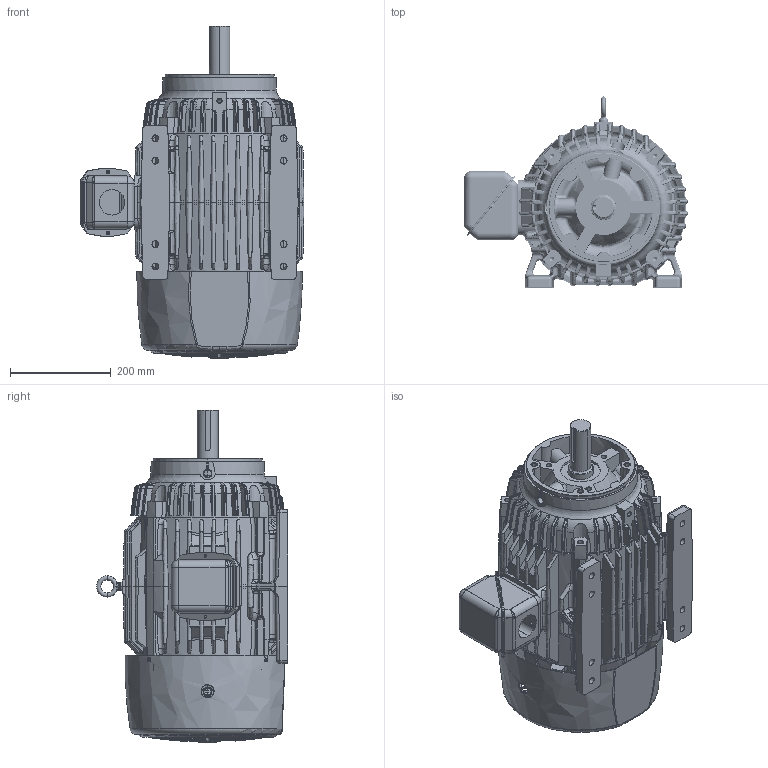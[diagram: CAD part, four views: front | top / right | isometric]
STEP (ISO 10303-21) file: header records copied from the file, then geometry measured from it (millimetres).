
FILE_DESCRIPTION((''),'2;1');
FILE_NAME('250_CFACE_TEFC_INVERTER_ASM','2018-09-27T13:38:32',('emd2341'),('Nidec Motor Corporation'),'CREO PARAMETRIC BY PTC INC, 2018020','CREO PARAMETRIC BY PTC INC, 2018020','');
FILE_SCHEMA(('CONFIG_CONTROL_DESIGN'));
Products named in the file (10): 0929916; 0998662; 0183520; 2033459; 0644261; 0133167; 0378700; 0378701; 0380780; 250_CFACE_TEFC_INVERTER_ASM
Assembly tree (9 placements, depth 2):
  250_CFACE_TEFC_INVERTER_ASM
    0929916
    0998662
    0183520
    2033459
    0644261
    0133167
    0378700
    0378701
    0380780
Bounding box: 443.34 x 378.65 x 657.6 mm (x, y, z)
Volume: 10497292.4 mm3; surface area: 2391722.9 mm2
Topology: 11 solids, 40 shells, 3909 faces, 10208 edges, 6232 vertices
Faces by surface type: bspline 1291, cylinder 863, plane 814, torus 322, cone 275, sphere 220, extrusion 124
Entity records: 181939 total; most frequent: CARTESIAN_POINT 98853, ORIENTED_EDGE 20198, DIRECTION 13212, EDGE_CURVE 10154, VERTEX_POINT 6232, AXIS2_PLACEMENT_3D 5521, B_SPLINE_CURVE_WITH_KNOTS 5234, EDGE_LOOP 4080
